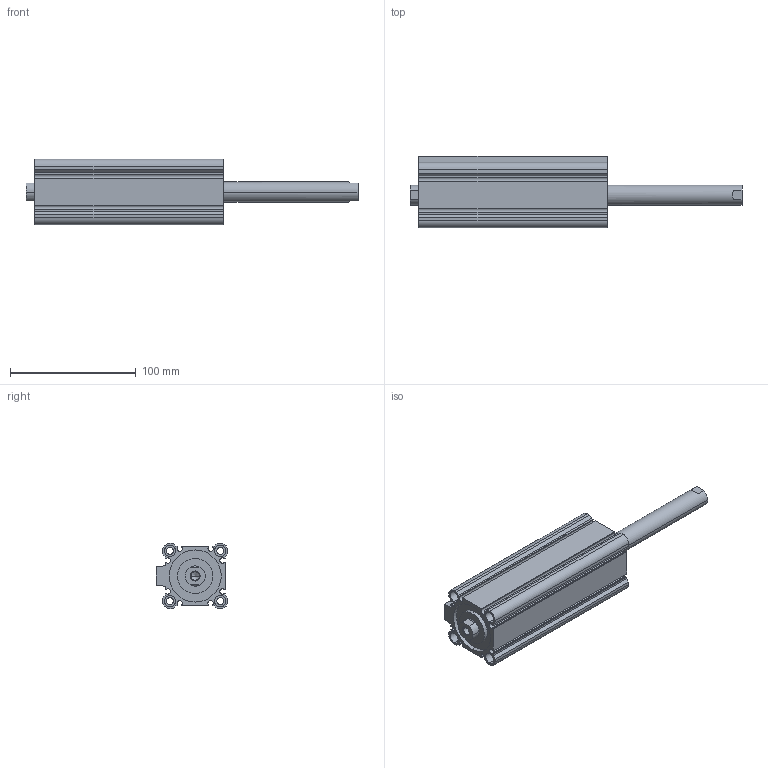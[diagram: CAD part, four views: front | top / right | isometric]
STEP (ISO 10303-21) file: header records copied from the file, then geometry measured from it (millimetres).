
FILE_DESCRIPTION (( 'STEP AP203' ), '1' );
FILE_NAME ('CCMB40-100F-P.STEP', '2020-08-05T11:25:54', ( '' ), ( '' ), 'SwSTEP 2.0', 'SolidWorks 2019', '' );
FILE_SCHEMA (( 'CONFIG_CONTROL_DESIGN' ));
Length unit declared in the file: millimetre
Products named in the file (1): CCMB40-100F-P
Bounding box: 264 x 57 x 52 mm (x, y, z)
Volume: 251009.7 mm3; surface area: 97524.4 mm2
Topology: 2 solids, 2 shells, 164 faces, 414 edges, 270 vertices
Faces by surface type: plane 78, cylinder 74, cone 12
Entity records: 5029 total; most frequent: DIRECTION 896, CARTESIAN_POINT 857, ORIENTED_EDGE 820, EDGE_CURVE 410, AXIS2_PLACEMENT_3D 325, VERTEX_POINT 270, VECTOR 246, LINE 246
